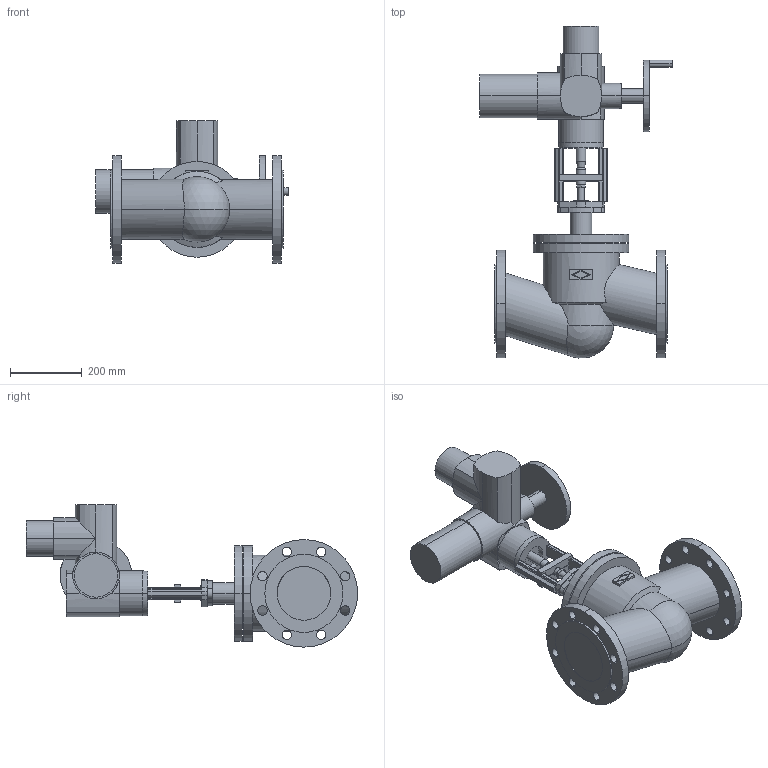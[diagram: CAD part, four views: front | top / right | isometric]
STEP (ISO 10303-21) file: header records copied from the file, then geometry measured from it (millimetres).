
FILE_DESCRIPTION(('OneSpaceDesigner STEP Export'),'2;1');
FILE_NAME('c000003112.stp','2007-01-09T11:46:04',(''),(''),'OneSpace Designer STEP processor for AP214 (Solid Model)','OneSpace Designer 14.00B 27-May-2006 (C) CoCreate Software GmbH','');
FILE_SCHEMA(('AUTOMOTIVE_DESIGN { 1 0 10303 214 1 1 1 1 }'));
Length unit declared in the file: millimetre
Products named in the file (3): 1; 2; 3
Bounding box: 536 x 925.77 x 397 mm (x, y, z)
Volume: 31057878.2 mm3; surface area: 1320442.9 mm2
Topology: 3 solids, 3 shells, 284 faces, 718 edges, 454 vertices
Faces by surface type: cylinder 148, plane 128, cone 6, sphere 2
Entity records: 8320 total; most frequent: CARTESIAN_POINT 1917, ORIENTED_EDGE 1432, DIRECTION 1179, EDGE_CURVE 716, VERTEX_POINT 454, AXIS2_PLACEMENT_3D 405, VECTOR 369, LINE 369
